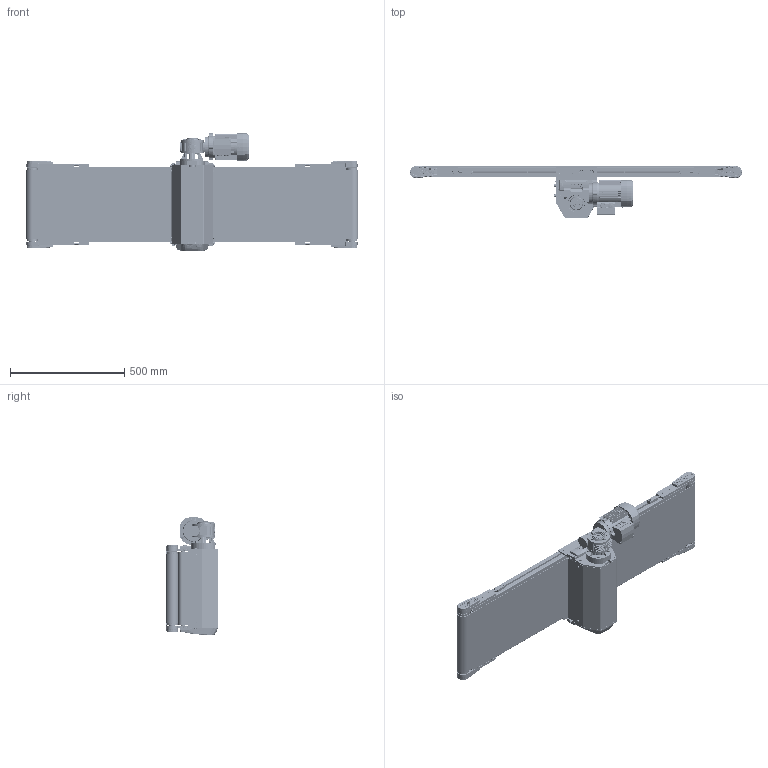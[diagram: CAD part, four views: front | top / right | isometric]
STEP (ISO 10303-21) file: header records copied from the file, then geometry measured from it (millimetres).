
FILE_DESCRIPTION (( 'STEP AP203' ), '1' );
FILE_NAME ('NASTRO_RETTILINEO_TAPPETO.step', '2026-04-21T09:01:51', ( 'Utente Windows' ), ( '' ), 'SwSTEP 2.0', 'SolidWorks 2024', '' );
FILE_SCHEMA (( 'CONFIG_CONTROL_DESIGN' ));
Length unit declared in the file: millimetre
Products named in the file (59): VITI TE UNI 5739_M6x50 UNI 5739; VITE_RONDELLA_M8X20; 084.802.010; 084.802.017_084.802.017; 084.802.004-1; RONDELLE UNI 6592_6.4x12.5 UNI 6592; 084.802.003; TELAIO_50_STANDARD_Default<A macchina>; VITE_DADO_M6X12; TRAVERSA_50-95_CENTRALE_Default<A macchina>; VITI TE UNI 5739_M6x12 UNI 5739; 084.802.071; CHIAVETTE_A 8x7x20 UNI 6604-69; 084.302.017; PERNO_TENSIONAMENTO_50-95_CENTRALE; BLOCCO_RINVIO_50_STANDARD; RULLO_50_Default<A macchina>; VITI TSEI UNI 5933_M8x20 UNI 5933; 30UNI7435; VITI TSEI UNI 5933_M4x10 UNI 5933; VITI TSEI UNI 5933_M5x12 UNI 5933; 084.811.004; VITI TSEI UNI 5933_M6x12 UNI 5933; CHIAVETTE_A 6x6x60 UNI 6604-69; NASTRO_RETTILINEO_TAPPETO; RONDELLE FASCIA LARGA UNI 6593_6.4x24 UNI 6593; RULLO_TENSIONAMENTO_50-95_CENTRALE; TAPPETO_CENTRALE; 084.802.020; BLOCCO_PERNO_50_RINVIO; LAMIERA_STANDARD; 084.302.000 DADI ALUSIC 13x13-1_084.302.007; VITI TE UNI 5739_M8x12 UNI 5739; VITI TSEI UNI 5933_M8x16 UNI 5933; VITE_DADO_M5X12; VITI TE UNI 5739_M8x20 UNI 5739; RULLO_95_Default<A macchina>; CH04F_DX; BLOCCO_PERNO_50_CENTRALE_44; BLOCCO_PERNO_95_RINVIO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
Assembly tree (132 placements, depth 3):
  NASTRO_RETTILINEO_TAPPETO
    TAPPETO_CENTRALE
    TELAIO_50_STANDARD_Default<A macchina>
    LAMIERA_STANDARD
    RULLO_50_Default<A macchina>  x2
    BLOCCO_PERNO_50_RINVIO  x4
      084.811.004
      084.810.001
    BLOCCO_RINVIO_50_STANDARD  x4
      084.807.002_084.807.002
      084.802.017_084.802.017
      084.802.008
      084.301.000 VITI ALUSIC_084.301.003
      084.302.000 DADI ALUSIC 13x13_084.302.004
      VITI TSEI UNI 5933_M4x10 UNI 5933
      084.802.071
    RULLO_95_Default<A macchina>
    BLOCCO_TRAINO_50-95_CENTRALE_44
      084.802.010
      084.802.021
      084.802.004-1  x2
      084.802.003
      VITI TSEI UNI 5933_M8x20 UNI 5933  x4
      084.302.017
      VITI TE UNI 5739_M6x50 UNI 5739  x2
      DADI ESAGONALI NORMALI UNI 5588_M6 UNI 5588  x2
      VITI TE UNI 5739_M6x16 UNI 5739  x2
      RONDELLE UNI 6592_6.4x12.5 UNI 6592  x2
      VITI TSEI UNI 5933_M6x12 UNI 5933  x4
      VITI TSEI UNI 5933_M8x16 UNI 5933  x3
      VITI TE UNI 5739_M8x20 UNI 5739  x4
      084.802.070
    BLOCCO_TRAINO_50-95_CENTRALE
      084.802.004-1  x2
      084.802.020
      084.802.003
      VITI TSEI UNI 5933_M8x20 UNI 5933  x4
      VITI TSEI UNI 5933_M6x12 UNI 5933  x6
      RONDELLE UNI 6592_8.4x17 UNI 6592  x2
      VITI TE UNI 5739_M8x12 UNI 5739  x2
      VITI TE UNI 5739_M6x16 UNI 5739  x2
      084.302.017
      RONDELLE UNI 6592_6.4x12.5 UNI 6592  x2
      VITI TE UNI 5739_M6x50 UNI 5739  x2
      DADI ESAGONALI NORMALI UNI 5588_M6 UNI 5588  x2
      084.802.064
    BLOCCO_PERNO_50_CENTRALE_44
      084.814.002-1
      084.810.003
      RONDELLE FASCIA LARGA UNI 6593_6.4x24 UNI 6593
      VITI TE UNI 5739_M6x12 UNI 5739
      CHIAVETTE_A 6x6x60 UNI 6604-69
      CHIAVETTE_A 8x7x20 UNI 6604-69
      30UNI7435
    BLOCCO_PERNO_95_RINVIO
      084.812.003
      084.810.003
      30UNI7435
    CARTER_50-95_CENTRALE
    RULLO_TENSIONAMENTO_50-95_CENTRALE  x2
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Bounding box: 1454 x 227.5 x 516.4 mm (x, y, z)
Volume: 10903056.3 mm3; surface area: 7334669.3 mm2
Topology: 203 solids, 214 shells, 8940 faces, 22872 edges, 14576 vertices
Faces by surface type: plane 4006, cylinder 2560, cone 1073, bspline 938, torus 324, sphere 39
Entity records: 184943 total; most frequent: CARTESIAN_POINT 64945, ORIENTED_EDGE 24682, DIRECTION 21793, EDGE_CURVE 12341, VERTEX_POINT 7918, AXIS2_PLACEMENT_3D 7909, LINE 5975, VECTOR 5975
